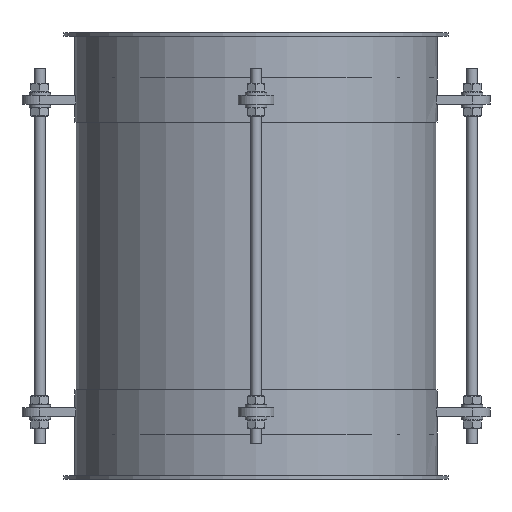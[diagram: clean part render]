
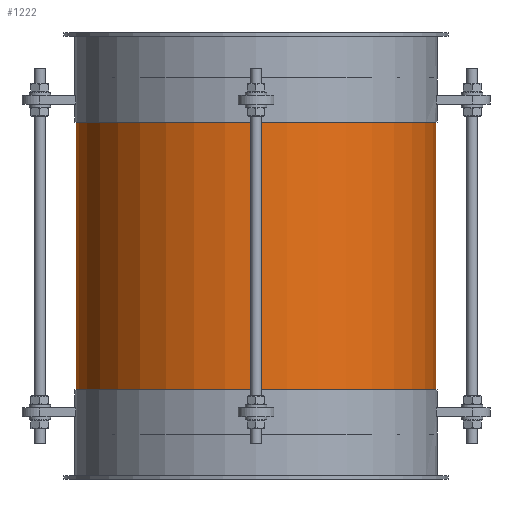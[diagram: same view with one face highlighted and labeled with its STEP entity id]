
A CAD part, front view. The second image highlights one B-rep face of the part: STEP entity #1222.
In plain terms, the highlighted cylindrical face has radius 100.75 mm (diameter 201.5 mm), a full revolution.
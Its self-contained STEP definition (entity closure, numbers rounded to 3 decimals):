
#1195=CARTESIAN_POINT('',(0.0,0.0,0.0));
#1196=DIRECTION('',(0.0,0.0,1.0));
#1197=DIRECTION('',(-1.0,0.0,0.0));
#1198=AXIS2_PLACEMENT_3D('',#1195,#1196,#1197);
#1199=CYLINDRICAL_SURFACE('',#1198,100.75);
#1200=CARTESIAN_POINT('',(100.75,0.,200.0));
#1201=VERTEX_POINT('',#1200);
#1202=CARTESIAN_POINT('',(0.0,0.0,200.0));
#1203=DIRECTION('',(0.0,0.0,-1.0));
#1204=DIRECTION('',(-1.0,0.0,0.0));
#1205=AXIS2_PLACEMENT_3D('',#1202,#1203,#1204);
#1206=CIRCLE('',#1205,100.75);
#1207=EDGE_CURVE('',#1201,#1201,#1206,.T.);
#1208=ORIENTED_EDGE('',*,*,#1207,.T.);
#1209=EDGE_LOOP('',(#1208));
#1210=FACE_OUTER_BOUND('',#1209,.T.);
#1211=CARTESIAN_POINT('',(100.75,0.,0.0));
#1212=VERTEX_POINT('',#1211);
#1213=CARTESIAN_POINT('',(0.0,0.0,0.0));
#1214=DIRECTION('',(0.0,0.0,-1.0));
#1215=DIRECTION('',(-1.0,0.0,0.0));
#1216=AXIS2_PLACEMENT_3D('',#1213,#1214,#1215);
#1217=CIRCLE('',#1216,100.75);
#1218=EDGE_CURVE('',#1212,#1212,#1217,.T.);
#1219=ORIENTED_EDGE('',*,*,#1218,.F.);
#1220=EDGE_LOOP('',(#1219));
#1221=FACE_BOUND('',#1220,.T.);
#1222=ADVANCED_FACE('',(#1210,#1221),#1199,.T.);
